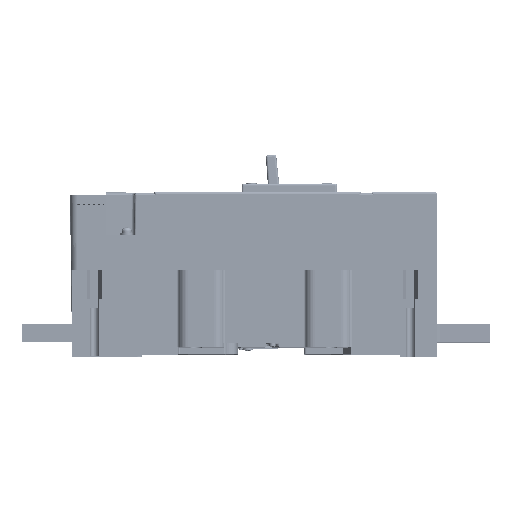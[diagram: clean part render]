
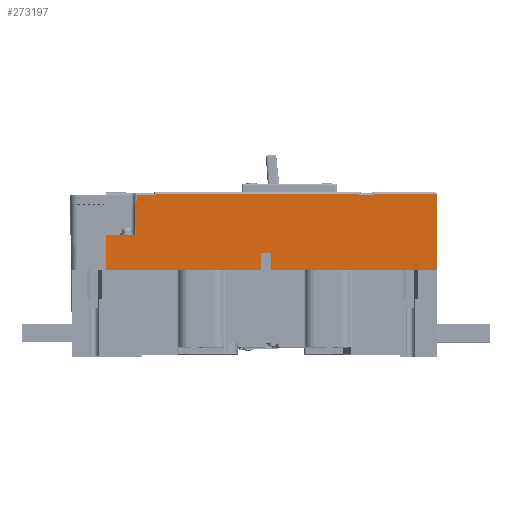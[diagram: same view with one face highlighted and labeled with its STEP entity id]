
A CAD part, top view. The second image highlights one B-rep face of the part: STEP entity #273197.
In plain terms, the highlighted planar face has unit normal (0, 0, 1).
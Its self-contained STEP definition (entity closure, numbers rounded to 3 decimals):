
#99509 = VERTEX_POINT ( 'NONE', #341782 ) ;
#99523 = VERTEX_POINT ( 'NONE', #341804 ) ;
#99552 = VERTEX_POINT ( 'NONE', #341846 ) ;
#99564 = VERTEX_POINT ( 'NONE', #341863 ) ;
#99570 = VERTEX_POINT ( 'NONE', #341870 ) ;
#99572 = VERTEX_POINT ( 'NONE', #341873 ) ;
#99573 = VERTEX_POINT ( 'NONE', #341876 ) ;
#99575 = VERTEX_POINT ( 'NONE', #341879 ) ;
#99577 = VERTEX_POINT ( 'NONE', #341882 ) ;
#99578 = VERTEX_POINT ( 'NONE', #341884 ) ;
#127366 = AXIS2_PLACEMENT_3D ( 'NONE', #196709, #196731, #196734 ) ;
#193806 = FACE_OUTER_BOUND ( 'NONE', #295764, .T. ) ;
#196709 = CARTESIAN_POINT ( 'NONE',  ( 165.285, 116.812, 252.448 ) ) ;
#196727 = PLANE ( 'NONE',  #127366 ) ;
#196731 = DIRECTION ( 'NONE',  ( 0., 0., -1. ) ) ;
#196734 = DIRECTION ( 'NONE',  ( -1., 0., 0. ) ) ;
#214241 = ORIENTED_EDGE ( 'NONE', *, *, #369248, .T. ) ;
#214243 = ORIENTED_EDGE ( 'NONE', *, *, #369250, .F. ) ;
#214247 = ORIENTED_EDGE ( 'NONE', *, *, #369251, .F. ) ;
#214254 = ORIENTED_EDGE ( 'NONE', *, *, #368740, .T. ) ;
#214258 = ORIENTED_EDGE ( 'NONE', *, *, #369253, .F. ) ;
#214265 = ORIENTED_EDGE ( 'NONE', *, *, #369255, .T. ) ;
#214269 = ORIENTED_EDGE ( 'NONE', *, *, #369257, .T. ) ;
#214274 = ORIENTED_EDGE ( 'NONE', *, *, #369259, .T. ) ;
#214277 = ORIENTED_EDGE ( 'NONE', *, *, #369261, .T. ) ;
#214286 = ORIENTED_EDGE ( 'NONE', *, *, #369263, .T. ) ;
#214291 = ORIENTED_EDGE ( 'NONE', *, *, #369265, .T. ) ;
#214300 = ORIENTED_EDGE ( 'NONE', *, *, #369267, .T. ) ;
#225453 = VERTEX_POINT ( 'NONE', #315649 ) ;
#225455 = VERTEX_POINT ( 'NONE', #315652 ) ;
#256043 = VECTOR ( 'NONE', #261274, 1000. ) ;
#256047 = LINE ( 'NONE', #261270, #256043 ) ;
#261270 = CARTESIAN_POINT ( 'NONE',  ( 165.285, 39.962, 252.448 ) ) ;
#261274 = DIRECTION ( 'NONE',  ( 1., 0., 0. ) ) ;
#273030 = DIRECTION ( 'NONE',  ( 0., 1., 0. ) ) ;
#273032 = CARTESIAN_POINT ( 'NONE',  ( -129.679, 119.386, 252.448 ) ) ;
#273035 = DIRECTION ( 'NONE',  ( -0.009, -1., 0. ) ) ;
#273045 = CARTESIAN_POINT ( 'NONE',  ( -160.43, 39.962, 252.448 ) ) ;
#273052 = CARTESIAN_POINT ( 'NONE',  ( -146.072, 74.312, 252.448 ) ) ;
#273055 = DIRECTION ( 'NONE',  ( 1., 0., 0. ) ) ;
#273073 = CARTESIAN_POINT ( 'NONE',  ( 166.985, 116.812, 252.448 ) ) ;
#273075 = DIRECTION ( 'NONE',  ( 0., -1., 0. ) ) ;
#273087 = CARTESIAN_POINT ( 'NONE',  ( 102.635, 114.812, 252.448 ) ) ;
#273089 = DIRECTION ( 'NONE',  ( -1., 0., 0. ) ) ;
#273100 = CARTESIAN_POINT ( 'NONE',  ( 104.635, 116.812, 252.448 ) ) ;
#273103 = DIRECTION ( 'NONE',  ( 0., -1., 0. ) ) ;
#273114 = CARTESIAN_POINT ( 'NONE',  ( 165.285, 113.612, 252.448 ) ) ;
#273115 = DIRECTION ( 'NONE',  ( -1., 0., 0. ) ) ;
#273127 = CARTESIAN_POINT ( 'NONE',  ( 90.26, 116.812, 252.448 ) ) ;
#273130 = DIRECTION ( 'NONE',  ( 0., 1., 0. ) ) ;
#273197 = ADVANCED_FACE ( 'NONE', ( #193806 ), #196727, .F. ) ;
#273803 = LINE ( 'NONE', #273087, #273823 ) ;
#273806 = VECTOR ( 'NONE', #273035, 1000. ) ;
#273809 = LINE ( 'NONE', #273045, #273826 ) ;
#273812 = LINE ( 'NONE', #273032, #273806 ) ;
#273814 = VECTOR ( 'NONE', #273055, 1000. ) ;
#273820 = LINE ( 'NONE', #273052, #273814 ) ;
#273823 = VECTOR ( 'NONE', #273089, 1000. ) ;
#273826 = VECTOR ( 'NONE', #273030, 1000. ) ;
#273828 = VECTOR ( 'NONE', #273075, 1000. ) ;
#273834 = LINE ( 'NONE', #273073, #273828 ) ;
#273837 = VECTOR ( 'NONE', #273103, 1000. ) ;
#273842 = LINE ( 'NONE', #273100, #273837 ) ;
#273848 = VECTOR ( 'NONE', #273115, 1000. ) ;
#273853 = LINE ( 'NONE', #273114, #273848 ) ;
#273859 = VECTOR ( 'NONE', #273130, 1000. ) ;
#273864 = LINE ( 'NONE', #273127, #273859 ) ;
#273870 = VECTOR ( 'NONE', #276127, 1000. ) ;
#273876 = LINE ( 'NONE', #276126, #273870 ) ;
#273881 = VECTOR ( 'NONE', #276132, 1000. ) ;
#273887 = LINE ( 'NONE', #276131, #273881 ) ;
#273892 = VECTOR ( 'NONE', #276135, 1000. ) ;
#273898 = LINE ( 'NONE', #276134, #273892 ) ;
#276126 = CARTESIAN_POINT ( 'NONE',  ( -112.43, 114.812, 252.448 ) ) ;
#276127 = DIRECTION ( 'NONE',  ( -1., 0., 0. ) ) ;
#276131 = CARTESIAN_POINT ( 'NONE',  ( -110.43, 116.812, 252.448 ) ) ;
#276132 = DIRECTION ( 'NONE',  ( 0., -1., 0. ) ) ;
#276134 = CARTESIAN_POINT ( 'NONE',  ( 165.285, 113.612, 252.448 ) ) ;
#276135 = DIRECTION ( 'NONE',  ( -1., 0., 0. ) ) ;
#295764 = EDGE_LOOP ( 'NONE', ( #214241, #214243, #214247, #214254, #214258, #214265, #214269, #214274, #214277, #214286, #214291, #214300 ) ) ;
#315649 = CARTESIAN_POINT ( 'NONE',  ( 166.985, 39.962, 252.448 ) ) ;
#315652 = CARTESIAN_POINT ( 'NONE',  ( -160.43, 39.962, 252.448 ) ) ;
#341782 = CARTESIAN_POINT ( 'NONE',  ( -129.729, 113.612, 252.448 ) ) ;
#341804 = CARTESIAN_POINT ( 'NONE',  ( -130.072, 74.312, 252.448 ) ) ;
#341846 = CARTESIAN_POINT ( 'NONE',  ( -160.43, 74.312, 252.448 ) ) ;
#341863 = CARTESIAN_POINT ( 'NONE',  ( 166.985, 114.812, 252.448 ) ) ;
#341870 = CARTESIAN_POINT ( 'NONE',  ( 104.635, 114.812, 252.448 ) ) ;
#341873 = CARTESIAN_POINT ( 'NONE',  ( 104.635, 113.612, 252.448 ) ) ;
#341876 = CARTESIAN_POINT ( 'NONE',  ( 90.26, 113.612, 252.448 ) ) ;
#341879 = CARTESIAN_POINT ( 'NONE',  ( 90.26, 114.812, 252.448 ) ) ;
#341882 = CARTESIAN_POINT ( 'NONE',  ( -110.43, 114.812, 252.448 ) ) ;
#341884 = CARTESIAN_POINT ( 'NONE',  ( -110.43, 113.612, 252.448 ) ) ;
#368740 = EDGE_CURVE ( 'NONE', #225455, #225453, #256047, .T. ) ;
#369248 = EDGE_CURVE ( 'NONE', #99509, #99523, #273812, .T. ) ;
#369250 = EDGE_CURVE ( 'NONE', #99552, #99523, #273820, .T. ) ;
#369251 = EDGE_CURVE ( 'NONE', #225455, #99552, #273809, .T. ) ;
#369253 = EDGE_CURVE ( 'NONE', #99564, #225453, #273834, .T. ) ;
#369255 = EDGE_CURVE ( 'NONE', #99564, #99570, #273803, .T. ) ;
#369257 = EDGE_CURVE ( 'NONE', #99570, #99572, #273842, .T. ) ;
#369259 = EDGE_CURVE ( 'NONE', #99572, #99573, #273853, .T. ) ;
#369261 = EDGE_CURVE ( 'NONE', #99573, #99575, #273864, .T. ) ;
#369263 = EDGE_CURVE ( 'NONE', #99575, #99577, #273876, .T. ) ;
#369265 = EDGE_CURVE ( 'NONE', #99577, #99578, #273887, .T. ) ;
#369267 = EDGE_CURVE ( 'NONE', #99578, #99509, #273898, .T. ) ;
